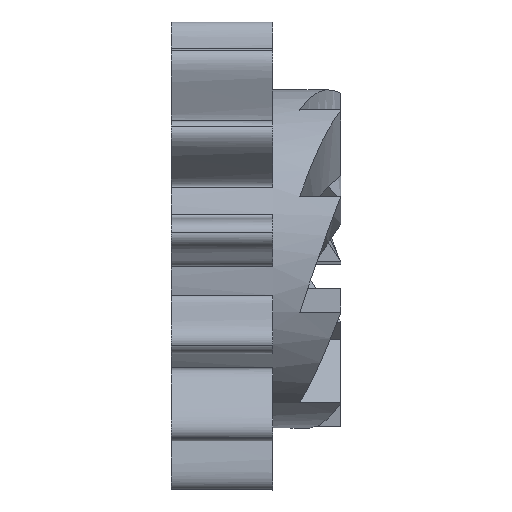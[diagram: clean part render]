
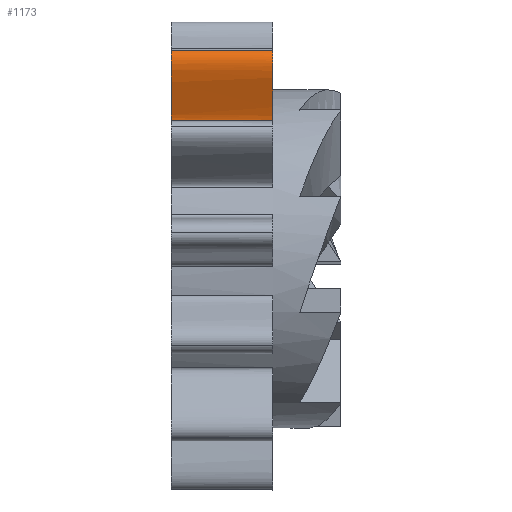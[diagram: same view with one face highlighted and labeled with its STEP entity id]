
A CAD part, left-side view. The second image highlights one B-rep face of the part: STEP entity #1173.
In plain terms, the highlighted free-form (B-spline) face has degree [3, 1] with [5, 2] control points.
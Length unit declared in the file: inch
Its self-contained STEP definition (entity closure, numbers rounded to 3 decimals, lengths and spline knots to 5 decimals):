
#24=B_SPLINE_SURFACE_WITH_KNOTS('',3,1,((#2070,#2071),(#2072,#2073),(#2074,
#2075),(#2076,#2077),(#2078,#2079)),.UNSPECIFIED.,.F.,.F.,.F.,(4,1,4),(2,
2),(0.,0.51837,1.),(0.,0.09),.UNSPECIFIED.);
#90=FACE_OUTER_BOUND('',#151,.T.);
#151=EDGE_LOOP('',(#919,#920,#921,#922));
#263=LINE('',#1739,#331);
#269=LINE('',#2069,#337);
#331=VECTOR('',#1384,137.79528);
#337=VECTOR('',#1428,137.79528);
#398=B_SPLINE_CURVE_WITH_KNOTS('',3,(#1874,#1875,#1876,#1877,#1878),
 .UNSPECIFIED.,.F.,.F.,(4,1,4),(0.,0.48163,1.),.UNSPECIFIED.);
#407=B_SPLINE_CURVE_WITH_KNOTS('',3,(#1928,#1929,#1930,#1931,#1932),
 .UNSPECIFIED.,.F.,.F.,(4,1,4),(0.,0.51837,1.),.UNSPECIFIED.);
#522=VERTEX_POINT('',#1736);
#523=VERTEX_POINT('',#1738);
#542=VERTEX_POINT('',#1868);
#547=VERTEX_POINT('',#1927);
#643=EDGE_CURVE('',#522,#523,#263,.T.);
#673=EDGE_CURVE('',#542,#522,#398,.T.);
#682=EDGE_CURVE('',#523,#547,#407,.T.);
#706=EDGE_CURVE('',#542,#547,#269,.T.);
#919=ORIENTED_EDGE('',*,*,#673,.F.);
#920=ORIENTED_EDGE('',*,*,#706,.T.);
#921=ORIENTED_EDGE('',*,*,#682,.F.);
#922=ORIENTED_EDGE('',*,*,#643,.F.);
#1173=ADVANCED_FACE('',(#90),#24,.T.);
#1384=DIRECTION('',(0.,1.,0.));
#1428=DIRECTION('',(0.,1.,0.));
#1736=CARTESIAN_POINT('',(-0.10433,2.08681,0.08193));
#1738=CARTESIAN_POINT('',(-0.10433,2.19016,0.08193));
#1739=CARTESIAN_POINT('',(-0.10433,1.99766,0.08193));
#1868=CARTESIAN_POINT('',(-0.11425,2.08681,0.15724));
#1874=CARTESIAN_POINT('Ctrl Pts',(-0.11425,2.08681,0.15724));
#1875=CARTESIAN_POINT('Ctrl Pts',(-0.12423,2.08681,0.15187));
#1876=CARTESIAN_POINT('Ctrl Pts',(-0.11929,2.08681,0.12397));
#1877=CARTESIAN_POINT('Ctrl Pts',(-0.09926,2.08681,
0.08579));
#1878=CARTESIAN_POINT('Ctrl Pts',(-0.10433,2.08681,0.08193));
#1927=CARTESIAN_POINT('',(-0.11425,2.19016,0.15724));
#1928=CARTESIAN_POINT('Ctrl Pts',(-0.10433,2.19016,0.08193));
#1929=CARTESIAN_POINT('Ctrl Pts',(-0.09926,2.19016,
0.08579));
#1930=CARTESIAN_POINT('Ctrl Pts',(-0.11929,2.19016,0.12397));
#1931=CARTESIAN_POINT('Ctrl Pts',(-0.12423,2.19016,0.15187));
#1932=CARTESIAN_POINT('Ctrl Pts',(-0.11425,2.19016,0.15724));
#2069=CARTESIAN_POINT('',(-0.11425,1.99766,0.15724));
#2070=CARTESIAN_POINT('Ctrl Pts',(-0.10433,2.08681,0.08193));
#2071=CARTESIAN_POINT('Ctrl Pts',(-0.10433,2.21082,0.08193));
#2072=CARTESIAN_POINT('Ctrl Pts',(-0.09926,2.08681,
0.08579));
#2073=CARTESIAN_POINT('Ctrl Pts',(-0.09926,2.21082,
0.08579));
#2074=CARTESIAN_POINT('Ctrl Pts',(-0.11929,2.08681,0.12397));
#2075=CARTESIAN_POINT('Ctrl Pts',(-0.11929,2.21082,0.12397));
#2076=CARTESIAN_POINT('Ctrl Pts',(-0.12423,2.08681,0.15187));
#2077=CARTESIAN_POINT('Ctrl Pts',(-0.12423,2.21082,0.15187));
#2078=CARTESIAN_POINT('Ctrl Pts',(-0.11425,2.08681,0.15724));
#2079=CARTESIAN_POINT('Ctrl Pts',(-0.11425,2.21082,0.15724));
